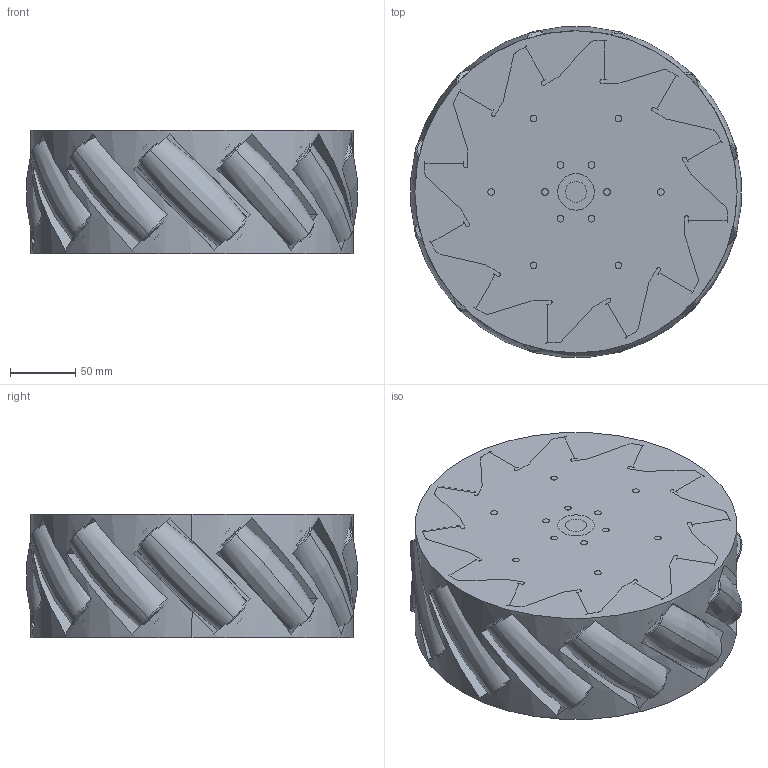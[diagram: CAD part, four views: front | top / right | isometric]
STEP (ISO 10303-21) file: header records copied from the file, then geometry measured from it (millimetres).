
FILE_DESCRIPTION(('Open CASCADE Model'),'2;1');
FILE_NAME('MM117-R.STEP','2026-10-18T18:23:41',('Author'),( 'Open CASCADE'),'Open CASCADE STEP processor 7.9','Open CASCADE 7.9' ,'Unknown');
FILE_SCHEMA(('AUTOMOTIVE_DESIGN { 1 0 10303 214 1 1 1 1 }'));
Length unit declared in the file: millimetre
Products named in the file (17): MM117-R; Open CASCADE STEP translator 7.9 16.1; Open CASCADE STEP translator 7.9 16.2; Open CASCADE STEP translator 7.9 16.2.1; Open CASCADE STEP translator 7.9 16.2.1.1; Open CASCADE STEP translator 7.9 16.2.1.2; Open CASCADE STEP translator 7.9 16.2.2; Open CASCADE STEP translator 7.9 16.2.2.1; Open CASCADE STEP translator 7.9 16.2.2.2; Open CASCADE STEP translator 7.9 16.2.3; Open CASCADE STEP translator 7.9 16.2.5; Open CASCADE STEP translator 7.9 16.14; Open CASCADE STEP translator 7.9 16.14.1; Open CASCADE STEP translator 7.9 16.14.2; Open CASCADE STEP translator 7.9 16.16; Open CASCADE STEP translator 7.9 16.17; Open CASCADE STEP translator 7.9 16.41
Assembly tree (57 placements, depth 4):
  MM117-R
    Open CASCADE STEP translator 7.9 16.1
    Open CASCADE STEP translator 7.9 16.2  x12
      Open CASCADE STEP translator 7.9 16.2.1
        Open CASCADE STEP translator 7.9 16.2.1.1
        Open CASCADE STEP translator 7.9 16.2.1.2
      Open CASCADE STEP translator 7.9 16.2.2
        Open CASCADE STEP translator 7.9 16.2.2.1
        Open CASCADE STEP translator 7.9 16.2.2.2
      Open CASCADE STEP translator 7.9 16.2.3
      Open CASCADE STEP translator 7.9 16.2.5
    Open CASCADE STEP translator 7.9 16.14  x2
      Open CASCADE STEP translator 7.9 16.14.1
      Open CASCADE STEP translator 7.9 16.14.2
    Open CASCADE STEP translator 7.9 16.16
    Open CASCADE STEP translator 7.9 16.17  x24
    Open CASCADE STEP translator 7.9 16.41  x6
Bounding box: 253.09 x 253.09 x 95 mm (x, y, z)
Volume: 4803084.8 mm3; surface area: 1047930.8 mm2
Topology: 94 solids, 120 shells, 2400 faces, 5408 edges, 3356 vertices
Faces by surface type: cylinder 850, plane 830, torus 336, cone 240, revolution 120, bspline 24
Entity records: 37636 total; most frequent: CARTESIAN_POINT 11863, DIRECTION 4780, LINE 2630, VECTOR 2630, ORIENTED_EDGE 2522, PCURVE 2522, DEFINITIONAL_REPRESENTATION 2522, EDGE_CURVE 1270
